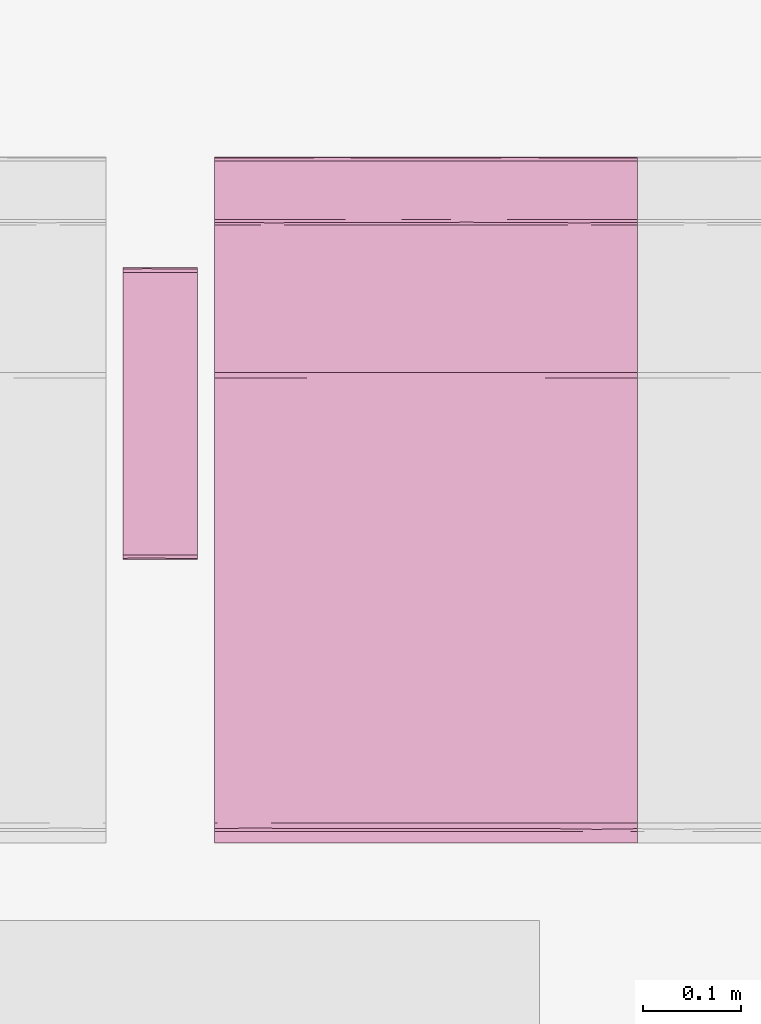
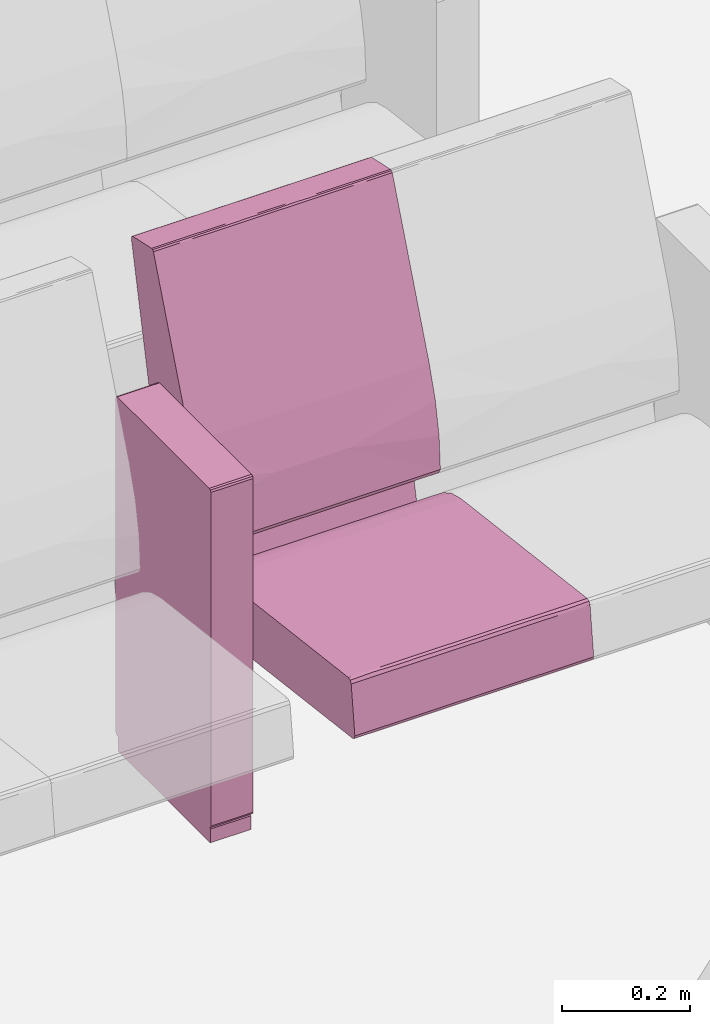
# One storey, part 86 of 155: 1 furnishing.
"""IFC2X3 building model written with IfcOpenShell, lengths in metres."""

from ifc_helpers import new_model, entity, si_unit, converted_unit, derived_unit, direction, frame, origin, place, context, subcontext, project, spatial, faceted_brep, source, transform, mapped, material, material_list, type_object, type_shapes, element, save


model = new_model("IFC2X3")

# Units and contexts
model_context = context("Model", 3, precision=1e-05, world=origin(), true_north=direction((6.12303176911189e-17, 1.0)))
body_context = subcontext(model_context, "Body", "Model", "MODEL_VIEW")
ifc_project = project(units=[si_unit("LENGTHUNIT", "METRE"), si_unit("AREAUNIT", "SQUARE_METRE"), si_unit("VOLUMEUNIT", "CUBIC_METRE"), converted_unit("PLANEANGLEUNIT", "DEGREE", entity("IfcRatioMeasure", 0.0174532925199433), si_unit("PLANEANGLEUNIT", "RADIAN"), dimensions=[0, 0, 0, 0, 0, 0, 0]), si_unit("MASSUNIT", "GRAM", prefix="KILO"), derived_unit("MASSDENSITYUNIT", [(si_unit("MASSUNIT", "GRAM", prefix="KILO"), 1), (si_unit("LENGTHUNIT", "METRE"), -3)]), si_unit("TIMEUNIT", "SECOND"), si_unit("FREQUENCYUNIT", "HERTZ"), si_unit("THERMODYNAMICTEMPERATUREUNIT", "DEGREE_CELSIUS"), derived_unit("THERMALTRANSMITTANCEUNIT", [(si_unit("MASSUNIT", "GRAM", prefix="KILO"), 1), (si_unit("THERMODYNAMICTEMPERATUREUNIT", "KELVIN"), -1), (si_unit("TIMEUNIT", "SECOND"), -3)]), derived_unit("VOLUMETRICFLOWRATEUNIT", [(si_unit("LENGTHUNIT", "METRE"), 3), (si_unit("TIMEUNIT", "SECOND"), -1)]), si_unit("ELECTRICCURRENTUNIT", "AMPERE"), si_unit("ELECTRICVOLTAGEUNIT", "VOLT"), si_unit("POWERUNIT", "WATT"), si_unit("FORCEUNIT", "NEWTON", prefix="KILO"), si_unit("ILLUMINANCEUNIT", "LUX"), si_unit("LUMINOUSFLUXUNIT", "LUMEN"), si_unit("LUMINOUSINTENSITYUNIT", "CANDELA"), derived_unit("USERDEFINED", [(si_unit("MASSUNIT", "GRAM", prefix="KILO"), -1), (si_unit("LENGTHUNIT", "METRE"), -2), (si_unit("TIMEUNIT", "SECOND"), 3), (si_unit("LUMINOUSFLUXUNIT", "LUMEN"), 1)]), derived_unit("LINEARVELOCITYUNIT", [(si_unit("LENGTHUNIT", "METRE"), 1), (si_unit("TIMEUNIT", "SECOND"), -1)]), si_unit("PRESSUREUNIT", "PASCAL"), derived_unit("USERDEFINED", [(si_unit("LENGTHUNIT", "METRE"), -2), (si_unit("MASSUNIT", "GRAM", prefix="KILO"), 1), (si_unit("TIMEUNIT", "SECOND"), -2)])], contexts=[model_context])

# Site, building, storey, space
site_placement = place(None, frame((26.9889013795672, -17.5624287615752, 0.0)))
site = spatial("IfcSite", under=ifc_project, at=site_placement, Name="Default", CompositionType="ELEMENT")
building_placement = place(site_placement, origin())
building = spatial("IfcBuilding", under=site, at=building_placement, Name="C. C. L. Monsenhor Antônio Sampaio", CompositionType="ELEMENT")
storey_placement = place(building_placement, frame((0.0, 0.0, 1.19999999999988)))
storey = spatial("IfcBuildingStorey", under=building, at=storey_placement, Name="Nível 1.2", CompositionType="ELEMENT", Elevation=1.19999999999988)
space_placement = place(storey_placement, origin())
space = spatial("IfcSpace", under=storey, at=space_placement, Name="94", CompositionType="ELEMENT", InteriorOrExteriorSpace="INTERNAL")

# Furnishing
ifc_material_1 = material(Name="V9 - V9 - Ecopelle_672_658")
ifc_material_2 = material(Name="V9 - V9 - RAL_9006_Grigio")
ifc_material_list_1 = material_list([ifc_material_1, ifc_material_2])
ifc_material_list_2 = material_list([ifc_material_1, ifc_material_2])
furniture_type = type_object("IfcFurnitureType", Name="Cadeira auditório", material=ifc_material_list_2)
shared_shape = source(origin(), body_context, "Body", "Brep", [
    faceted_brep([(0.405536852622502, 0.156348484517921, 0.339809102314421), (0.410560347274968, 0.131924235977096, 0.34246450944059), (0.405536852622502, 0.1075, 0.339809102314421), (0.405536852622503, 0.0537499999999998, 0.339809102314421), (0.410597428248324, 0.084060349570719, 0.342506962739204), (0.41079981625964, 0.0179166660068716, 0.342749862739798), (0.405536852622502, 0.215, 0.339809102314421), (0.410248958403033, 0.173608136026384, 0.342130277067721), (0.412515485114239, 0.185674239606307, 0.348529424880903), (0.412515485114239, 0.143333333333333, 0.348529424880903), (0.410560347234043, -0.131924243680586, 0.342464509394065), (0.405536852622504, -0.156348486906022, 0.33980910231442), (0.405536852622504, -0.1075, 0.33980910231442), (0.405536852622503, 0.0, 0.33980910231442), (0.41251548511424, 0.0, 0.348529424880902), (0.411170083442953, -0.0341365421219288, 0.343251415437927), (0.41059742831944, -0.0840603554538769, 0.342506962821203), (0.41251548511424, -0.143333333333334, 0.348529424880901), (0.412515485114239, 0.0358333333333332, 0.348529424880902), (0.412515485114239, 0.0716666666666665, 0.348529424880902), (0.405536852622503, -0.0537500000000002, 0.33980910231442), (0.412515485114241, -0.185674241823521, 0.348529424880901), (0.410799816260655, -0.215, 0.342749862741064), (0.410248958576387, -0.173608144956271, 0.342130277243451), (0.410799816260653, 0.215, 0.342749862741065), (0.412515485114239, 0.215, 0.348529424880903), (0.412515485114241, -0.215, 0.348529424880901), (0.41251548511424, -0.0716666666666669, 0.348529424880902), (0.405536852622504, -0.215, 0.33980910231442), (-0.0557900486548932, -0.215, 0.28268145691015), (-0.055790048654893, -0.168631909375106, 0.282681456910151), (-0.0557900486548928, -0.138065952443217, 0.282681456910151), (-0.0557900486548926, -0.107499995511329, 0.282681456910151), (-0.0557900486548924, -0.0806249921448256, 0.282681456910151), (-0.0557900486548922, -0.0537499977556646, 0.282681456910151), (-0.0557900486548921, -0.0268750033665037, 0.282681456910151), (-0.0557900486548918, 0.0, 0.28268145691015), (-0.0557900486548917, 0.0268749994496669, 0.282681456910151), (-0.0557900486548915, 0.0537499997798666, 0.282681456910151), (-0.0557900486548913, 0.0806250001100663, 0.282681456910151), (-0.0557900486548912, 0.107499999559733, 0.282681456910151), (-0.055790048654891, 0.134374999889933, 0.282681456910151), (-0.0557900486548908, 0.161250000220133, 0.282681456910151), (-0.0557900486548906, 0.1881249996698, 0.282681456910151), (-0.0557900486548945, 0.215, 0.28268145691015), (-0.0594787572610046, -0.0152829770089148, 0.283700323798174), (-0.0613666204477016, 0.0, 0.287029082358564), (-0.0594787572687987, 0.0179017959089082, 0.283700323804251), (-0.0613666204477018, 0.191815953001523, 0.287029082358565), (-0.0613666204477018, 0.215, 0.287029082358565), (-0.0594787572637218, 0.215, 0.283700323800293), (-0.0593340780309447, 0.0671874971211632, 0.283591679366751), (-0.0613666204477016, 0.030565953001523, 0.287029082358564), (-0.0594787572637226, -0.215, 0.283700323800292), (-0.0593337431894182, -0.184174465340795, 0.283591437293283), (-0.0613666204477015, -0.122263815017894, 0.287029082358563), (-0.0613666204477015, -0.0916978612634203, 0.287029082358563), (-0.0613666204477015, -0.0611319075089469, 0.287029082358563), (-0.0593023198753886, -0.0940625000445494, 0.283568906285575), (-0.059382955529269, 0.118123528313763, 0.28362747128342), (-0.0613666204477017, 0.122263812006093, 0.287029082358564), (-0.0597338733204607, 0.147039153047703, 0.283913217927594), (-0.0613666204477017, 0.168631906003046, 0.287029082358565), (-0.0592501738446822, 0.180223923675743, 0.283532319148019), (-0.0588783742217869, 0.0926899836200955, 0.283298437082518), (-0.0613666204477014, -0.215, 0.287029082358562), (-0.0613666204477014, -0.168631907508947, 0.287029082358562), (-0.0592576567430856, -0.123736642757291, 0.283537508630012), (-0.0594787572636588, -0.153348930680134, 0.283700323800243), (-0.0613666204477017, 0.0916978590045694, 0.287029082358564), (-0.0613666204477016, -0.0305659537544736, 0.287029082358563), (-0.059645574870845, -0.045848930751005, 0.283836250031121), (-0.0613666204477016, 0.0611319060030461, 0.287029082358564), (-0.069340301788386, -0.215, 0.351419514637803), (-0.0693403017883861, -0.143333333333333, 0.351419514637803), (-0.0693403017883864, -0.0716666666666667, 0.351419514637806), (-0.0693403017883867, 0.0, 0.351419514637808), (-0.069340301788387, 0.0716666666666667, 0.351419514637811), (-0.0693403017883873, 0.143333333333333, 0.351419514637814), (-0.0693403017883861, 0.215, 0.351419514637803), (-0.0597085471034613, 0.0, 0.37476954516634), (-0.0645543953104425, 0.112272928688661, 0.369803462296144), (-0.0653387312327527, 0.0126787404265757, 0.368680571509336), (-0.0681665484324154, -0.0888707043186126, 0.36292533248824), (-0.0655136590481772, -0.10440004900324, 0.368411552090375), (-0.0694879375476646, 0.0590582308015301, 0.356377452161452), (-0.0695056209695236, -0.125492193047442, 0.356093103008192), (-0.0597085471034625, -0.110316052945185, 0.374769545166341), (-0.0690003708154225, 0.132942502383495, 0.359900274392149), (-0.0672851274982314, 0.108066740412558, 0.365148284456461), (-0.0676206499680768, 0.215, 0.364371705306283), (-0.0686241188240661, 0.215, 0.356813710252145), (-0.0686241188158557, -0.214999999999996, 0.356813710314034), (-0.0686999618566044, 0.0358333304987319, 0.36116674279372), (-0.0694502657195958, -0.0358333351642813, 0.356863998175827), (-0.0676206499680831, -0.214999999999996, 0.364371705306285), (-0.0636645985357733, -0.214999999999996, 0.369570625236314), (-0.0597085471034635, -0.214999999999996, 0.374769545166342), (-0.0597085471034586, 0.215, 0.374769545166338), (-0.0636645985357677, 0.215, 0.36957062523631), (-0.0597085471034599, 0.110316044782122, 0.374769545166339), (-0.0324117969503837, 0.215, 0.390639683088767), (-0.0324117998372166, 0.0436847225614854, 0.39063968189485), (-0.0018793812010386, 0.215, 0.398686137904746), (-0.041847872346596, -0.0856576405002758, 0.386239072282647), (-0.0324117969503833, -0.215, 0.390639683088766), (-0.00187938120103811, -0.215, 0.398686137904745), (-0.00187938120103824, -0.102488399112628, 0.398686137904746), (-0.0219042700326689, -0.0570631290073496, 0.394412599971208), (-0.00187938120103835, 0.0, 0.398686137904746), (0.392202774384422, 0.215, 0.447486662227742), (0.392202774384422, -0.215, 0.447486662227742), (0.392202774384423, -0.156349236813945, 0.447486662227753), (0.392202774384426, -0.107499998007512, 0.447486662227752), (0.392202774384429, -0.0537500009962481, 0.44748666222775), (0.392202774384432, 0.0, 0.447486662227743), (0.392202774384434, 0.0537499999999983, 0.447486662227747), (0.392202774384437, 0.107499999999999, 0.447486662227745), (0.392202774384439, 0.156349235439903, 0.447486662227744), (0.398104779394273, -0.131924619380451, 0.445856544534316), (0.401125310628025, -0.0976984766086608, 0.440530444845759), (0.397860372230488, -0.0827732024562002, 0.446039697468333), (0.401125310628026, -0.215000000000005, 0.440530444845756), (0.401125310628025, -0.156349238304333, 0.440530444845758), (0.397373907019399, -0.173462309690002, 0.446363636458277), (0.398104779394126, -0.215000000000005, 0.445856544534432), (0.397860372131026, 0.0827731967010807, 0.446039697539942), (0.398104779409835, 0.131924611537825, 0.445856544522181), (0.398104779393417, -0.0237489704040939, 0.445856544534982), (0.398104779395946, 0.0268749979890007, 0.445856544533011), (0.401125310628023, 0.0488492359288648, 0.440530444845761), (0.401125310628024, -0.0488492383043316, 0.440530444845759), (0.398774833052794, 0.173462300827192, 0.445271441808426), (0.401125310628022, 0.097698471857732, 0.440530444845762), (0.401125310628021, 0.215, 0.440530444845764), (0.39810477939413, 0.215, 0.445856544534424), (0.401125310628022, 0.156349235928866, 0.440530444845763), (0.401125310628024, 0.0, 0.44053044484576)], [[[0, 1, 2]], [[3, 4, 5]], [[6, 7, 0]], [[7, 8, 9]], [[10, 11, 12]], [[3, 5, 13]], [[14, 15, 5]], [[16, 17, 10]], [[9, 1, 7]], [[18, 5, 4]], [[4, 9, 19, 18]], [[9, 4, 1]], [[2, 1, 4]], [[13, 15, 20]], [[21, 22, 23]], [[5, 18, 14]], [[24, 25, 8]], [[22, 21, 26]], [[24, 7, 6]], [[23, 11, 10]], [[20, 15, 16]], [[3, 2, 4]], [[14, 27, 15]], [[5, 15, 13]], [[27, 17, 16]], [[10, 12, 16]], [[21, 23, 17]], [[20, 16, 12]], [[15, 27, 16]], [[7, 1, 0]], [[28, 11, 23]], [[8, 7, 24]], [[23, 10, 17]], [[28, 23, 22]], [[28, 29, 30, 31, 32, 33, 34, 35, 36, 37, 38, 39, 40, 41, 42, 43, 44, 6, 0, 2, 3, 13, 20, 12, 11]], [[45, 46, 47]], [[48, 49, 50]], [[51, 47, 52]], [[29, 53, 54]], [[55, 56, 57, 58]], [[59, 60, 61]], [[61, 62, 63]], [[51, 64, 39]], [[65, 66, 54]], [[31, 67, 32]], [[45, 47, 38, 37, 36, 35]], [[68, 31, 30]], [[43, 50, 44]], [[63, 42, 61]], [[48, 50, 63]], [[64, 69, 59]], [[68, 54, 66]], [[63, 62, 48]], [[50, 43, 63]], [[67, 55, 58]], [[61, 42, 41]], [[45, 70, 46]], [[55, 68, 66]], [[71, 33, 58]], [[71, 57, 70]], [[41, 40, 59]], [[60, 62, 61]], [[71, 35, 34, 33]], [[35, 71, 45]], [[47, 46, 52]], [[45, 71, 70]], [[58, 57, 71]], [[32, 58, 33]], [[31, 68, 67]], [[54, 68, 30]], [[29, 54, 30]], [[54, 53, 65]], [[55, 67, 68]], [[32, 67, 58]], [[51, 52, 72, 69]], [[43, 42, 63]], [[41, 59, 61]], [[47, 51, 38]], [[40, 39, 64]], [[38, 51, 39]], [[69, 60, 59]], [[69, 64, 51]], [[40, 64, 59]], [[65, 73, 74, 75, 76, 77, 78, 79, 49, 48, 62, 60, 69, 72, 52, 46, 70, 57, 56, 55, 66]], [[80, 81, 82]], [[82, 83, 84]], [[78, 77, 76, 85]], [[86, 75, 74]], [[84, 80, 82]], [[80, 84, 87]], [[88, 89, 90]], [[91, 79, 78]], [[74, 73, 92]], [[85, 88, 91]], [[81, 89, 82]], [[93, 94, 83]], [[94, 86, 83]], [[85, 76, 94]], [[92, 86, 74]], [[85, 94, 93]], [[83, 92, 95]], [[75, 94, 76]], [[93, 83, 82]], [[95, 96, 84]], [[88, 85, 93]], [[96, 97, 87]], [[98, 99, 100]], [[78, 85, 91]], [[89, 88, 93]], [[90, 91, 88]], [[93, 82, 89]], [[81, 99, 89]], [[99, 90, 89]], [[100, 81, 80]], [[100, 99, 81]], [[83, 86, 92]], [[75, 86, 94]], [[95, 84, 83]], [[87, 84, 96]], [[101, 102, 103]], [[104, 80, 87, 97]], [[105, 106, 107]], [[107, 108, 105]], [[103, 102, 109]], [[104, 102, 80]], [[104, 108, 102]], [[98, 102, 101]], [[105, 104, 97]], [[105, 108, 104]], [[102, 98, 100, 80]], [[109, 108, 107]], [[109, 102, 108]], [[110, 103, 109, 107, 106, 111, 112, 113, 114, 115, 116, 117, 118]], [[119, 120, 121]], [[122, 123, 124]], [[111, 125, 124]], [[117, 116, 126]], [[124, 119, 112]], [[113, 112, 119]], [[127, 118, 117]], [[115, 114, 128, 129, 116]], [[129, 130, 126]], [[121, 131, 128]], [[127, 132, 118]], [[110, 118, 132]], [[127, 126, 133]], [[119, 124, 123]], [[134, 135, 132]], [[136, 132, 127]], [[120, 119, 123]], [[133, 136, 127]], [[137, 130, 129, 128, 131]], [[126, 127, 117]], [[130, 133, 126]], [[113, 119, 121]], [[129, 126, 116]], [[128, 114, 121]], [[114, 113, 121]], [[131, 121, 120]], [[111, 124, 112]], [[124, 125, 122]], [[134, 132, 136]], [[132, 135, 110]], [[19, 9, 8, 25, 134, 136, 133, 130, 137, 131, 120, 123, 122, 26, 21, 17, 27, 14, 18]], [[65, 53, 29, 28, 22, 26, 122, 125, 111, 106, 105, 97, 96, 95, 92, 73]], [[98, 101, 103, 110, 135, 134, 25, 24, 6, 44, 50, 49, 79, 91, 90, 99]]]),
    faceted_brep([(0.123144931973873, -0.283972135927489, 0.673627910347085), (0.12334838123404, -0.259944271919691, 0.6734355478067), (0.119812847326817, -0.27, 0.674900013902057), (0.124812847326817, -0.27, 0.669900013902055), (0.12334838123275, -0.232, 0.673435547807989), (0.119812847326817, -0.232, 0.674900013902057), (0.124812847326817, -0.308, 0.669900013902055), (0.119812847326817, -0.308, 0.674900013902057), (0.124812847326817, -0.249888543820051, 0.669900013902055), (0.124812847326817, -0.232, 0.669900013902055), (0.12334838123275, -0.308, 0.673435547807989), (0.124812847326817, -0.27, 0.035), (0.124812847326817, -0.232, 0.035), (0.124812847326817, -0.308, 0.0350000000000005), (0.123540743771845, -0.283972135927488, 0.0316679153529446), (0.12334838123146, -0.25994427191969, 0.0314644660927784), (0.119812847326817, -0.27, 0.0300000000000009), (0.12334838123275, -0.232, 0.0314644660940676), (0.119812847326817, -0.308, 0.0300000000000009), (0.119812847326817, -0.249888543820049, 0.030000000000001), (0.119812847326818, -0.232, 0.030000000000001), (0.123348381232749, -0.308, 0.0314644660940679), (-0.167179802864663, -0.308, 0.0300000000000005), (-0.167179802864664, -0.27, 0.0300000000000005), (-0.167179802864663, -0.232, 0.0300000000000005), (-0.17051188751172, -0.283972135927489, 0.0312721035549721), (-0.170715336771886, -0.25994427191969, 0.0314644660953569), (-0.172179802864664, -0.27, 0.0350000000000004), (-0.170715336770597, -0.232, 0.0314644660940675), (-0.172179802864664, -0.308, 0.0350000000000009), (-0.172179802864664, -0.24988854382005, 0.0350000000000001), (-0.172179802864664, -0.232, 0.0349999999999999), (-0.170715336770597, -0.308, 0.0314644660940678), (-0.172179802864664, -0.308, 0.669900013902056), (-0.172179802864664, -0.27, 0.669900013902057), (-0.172179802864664, -0.232, 0.669900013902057), (-0.170907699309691, -0.283972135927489, 0.673232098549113), (-0.170715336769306, -0.259944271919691, 0.673435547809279), (-0.167179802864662, -0.27, 0.674900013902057), (-0.170715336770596, -0.232, 0.67343554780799), (-0.167179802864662, -0.308, 0.674900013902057), (-0.167179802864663, -0.249888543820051, 0.674900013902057), (-0.167179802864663, -0.232, 0.674900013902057), (-0.170715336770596, -0.308, 0.67343554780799)], [[[0, 1, 2]], [[1, 0, 3]], [[1, 4, 5, 2]], [[6, 3, 0]], [[7, 0, 2]], [[4, 1, 3, 8, 9]], [[10, 0, 7]], [[0, 10, 6]], [[11, 12, 9, 8, 3, 6, 13]], [[14, 15, 11]], [[15, 14, 16]], [[15, 17, 12, 11]], [[18, 16, 14]], [[13, 14, 11]], [[17, 15, 16, 19, 20]], [[21, 14, 13]], [[14, 21, 18]], [[18, 22, 23, 24, 20, 19, 16]], [[25, 26, 23]], [[26, 25, 27]], [[26, 28, 24, 23]], [[29, 27, 25]], [[22, 25, 23]], [[28, 26, 27, 30, 31]], [[32, 25, 22]], [[25, 32, 29]], [[27, 29, 33, 34, 35, 31, 30]], [[36, 37, 34]], [[37, 36, 38]], [[37, 39, 35, 34]], [[40, 38, 36]], [[33, 36, 34]], [[39, 37, 38, 41, 42]], [[43, 36, 33]], [[36, 43, 40]], [[40, 7, 2, 5, 42, 41, 38]], [[35, 39, 42, 5, 4, 9, 12, 17, 20, 24, 28, 31]], [[29, 32, 22, 18, 21, 13, 6, 10, 7, 40, 43, 33]]]),
    faceted_brep([(-0.0695672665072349, 0.215, 0.476508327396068), (-0.074405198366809, 0.0524423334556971, 0.506888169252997), (-0.0655618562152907, 0.215, 0.415143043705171), (-0.0744051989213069, -0.0780075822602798, 0.506888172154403), (-0.0655618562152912, 0.0, 0.415143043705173), (-0.0655618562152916, -0.215, 0.415143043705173), (-0.0655618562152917, -0.1075, 0.415143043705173), (-0.0655618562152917, 0.1075, 0.415143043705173), (-0.0695672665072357, -0.215, 0.476508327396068), (-0.081111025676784, -0.215, 0.536911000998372), (-0.0811110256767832, 0.215, 0.536911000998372), (-0.100016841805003, 0.215, 0.595428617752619), (-0.100016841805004, 0.0, 0.595428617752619), (-0.100016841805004, -0.215, 0.595428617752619), (-0.0698317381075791, 0.0358333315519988, 0.406528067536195), (-0.0792851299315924, 0.0, 0.404772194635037), (-0.0792851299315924, 0.0716666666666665, 0.404772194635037), (-0.0792851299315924, -0.215, 0.404772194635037), (-0.0792851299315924, -0.143333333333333, 0.404772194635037), (-0.0698317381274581, -0.215, 0.406528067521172), (-0.0792851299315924, 0.143333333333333, 0.404772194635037), (-0.0792851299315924, 0.215, 0.404772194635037), (-0.0698317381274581, 0.215, 0.406528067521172), (-0.0694171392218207, 0.140338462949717, 0.406857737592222), (-0.0708115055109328, -0.0356393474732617, 0.405868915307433), (-0.0703502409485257, -0.107500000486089, 0.406159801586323), (-0.0792851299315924, -0.0716666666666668, 0.404772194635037), (-0.163837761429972, -0.215, 0.420611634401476), (-0.163837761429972, 0.215, 0.420611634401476), (-0.123612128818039, 0.215, 0.235917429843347), (-0.123612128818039, -0.215, 0.235917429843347), (-0.142059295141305, -0.215, 0.231899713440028), (-0.142059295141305, 0.215, 0.231899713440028), (-0.235388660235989, -0.215, 0.652619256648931), (-0.235388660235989, 0.215, 0.652619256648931), (-0.28428001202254, -0.215, 0.873004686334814), (-0.284280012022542, -0.191295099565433, 0.873004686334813), (-0.284280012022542, -0.161249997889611, 0.873004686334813), (-0.284280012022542, -0.134374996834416, 0.873004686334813), (-0.284280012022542, -0.107499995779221, 0.873004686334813), (-0.284280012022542, -0.0806249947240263, 0.873004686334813), (-0.284280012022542, -0.0537499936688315, 0.873004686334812), (-0.284280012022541, -0.0268749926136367, 0.873004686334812), (-0.28428001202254, 0.0, 0.873004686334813), (-0.284280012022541, 0.0268749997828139, 0.873004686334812), (-0.284280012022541, 0.0537500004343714, 0.873004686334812), (-0.284280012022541, 0.0806250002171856, 0.873004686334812), (-0.284280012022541, 0.1075, 0.873004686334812), (-0.284280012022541, 0.134374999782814, 0.873004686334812), (-0.28428001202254, 0.161249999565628, 0.873004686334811), (-0.28428001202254, 0.191295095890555, 0.873004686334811), (-0.28428001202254, 0.215, 0.873004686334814), (-0.283746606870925, 0.0872244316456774, 0.876674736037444), (-0.283504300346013, 0.0569644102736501, 0.877068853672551), (-0.283567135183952, -0.15546176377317, 0.876973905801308), (-0.283641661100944, -0.12093750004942, 0.87685511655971), (-0.283567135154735, 0.155461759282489, 0.876973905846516), (-0.28330409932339, 0.185293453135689, 0.877344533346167), (-0.283641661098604, 0.0179166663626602, 0.876855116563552), (-0.283641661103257, -0.0136463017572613, 0.876855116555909), (-0.280514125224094, -0.0358333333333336, 0.879190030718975), (-0.280514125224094, 0.0, 0.879190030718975), (-0.280514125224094, 0.0358333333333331, 0.879190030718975), (-0.280514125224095, -0.143333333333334, 0.879190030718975), (-0.280514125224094, -0.1075, 0.879190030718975), (-0.280514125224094, -0.071666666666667, 0.879190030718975), (-0.283746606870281, -0.0872244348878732, 0.876674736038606), (-0.280514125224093, 0.0716666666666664, 0.879190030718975), (-0.280514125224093, 0.1075, 0.879190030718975), (-0.283641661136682, 0.120937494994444, 0.876855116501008), (-0.280514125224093, 0.143333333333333, 0.879190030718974), (-0.283641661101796, 0.215, 0.876855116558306), (-0.283641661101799, -0.215, 0.876855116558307), (-0.283304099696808, -0.18529345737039, 0.877344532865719), (-0.280514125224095, -0.167590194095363, 0.879190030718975), (-0.280514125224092, 0.215, 0.879190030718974), (-0.280514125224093, 0.167590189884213, 0.879190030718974), (-0.280514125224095, -0.215, 0.879190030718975), (-0.283504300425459, -0.0569644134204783, 0.8770688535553), (-0.22111253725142, 0.215, 0.892176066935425), (-0.22111253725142, -0.215, 0.892176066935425), (-0.221112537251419, -0.191815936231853, 0.892176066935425), (-0.221112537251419, -0.161250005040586, 0.892176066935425), (-0.221112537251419, -0.134375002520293, 0.892176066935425), (-0.221112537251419, -0.1075, 0.892176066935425), (-0.221112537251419, -0.080624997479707, 0.892176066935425), (-0.221112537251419, -0.0537499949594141, 0.892176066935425), (-0.221112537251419, -0.0268750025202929, 0.892176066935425), (-0.221112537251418, 0.0, 0.892176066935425), (-0.221112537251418, 0.0268750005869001, 0.892176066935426), (-0.221112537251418, 0.05375000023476, 0.892176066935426), (-0.221112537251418, 0.0806249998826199, 0.892176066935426), (-0.221112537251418, 0.10749999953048, 0.892176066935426), (-0.221112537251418, 0.13437499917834, 0.892176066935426), (-0.221112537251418, 0.16124999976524, 0.892176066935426), (-0.221112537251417, 0.19181594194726, 0.892176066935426), (-0.215419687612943, 0.0, 0.889191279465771), (-0.215419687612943, 0.0358333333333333, 0.889191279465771), (-0.217722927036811, 0.0162353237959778, 0.891719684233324), (-0.217722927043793, -0.0134375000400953, 0.891719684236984), (-0.215419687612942, -0.191815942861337, 0.889191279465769), (-0.215419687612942, -0.168631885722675, 0.889191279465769), (-0.217722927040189, -0.182482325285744, 0.891719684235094), (-0.217722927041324, -0.215, 0.891719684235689), (-0.215419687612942, -0.215, 0.889191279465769), (-0.215419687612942, -0.1075, 0.88919127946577), (-0.215419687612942, -0.0716666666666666, 0.88919127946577), (-0.217722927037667, -0.0912646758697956, 0.891719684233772), (-0.217722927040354, -0.120937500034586, 0.89171968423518), (-0.215419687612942, -0.143333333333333, 0.88919127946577), (-0.215419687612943, 0.191815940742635, 0.889191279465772), (-0.215419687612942, 0.215, 0.889191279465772), (-0.217722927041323, 0.215, 0.89171968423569), (-0.217722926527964, 0.190103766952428, 0.891719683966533), (-0.217722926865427, 0.0912646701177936, 0.891719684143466), (-0.217816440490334, 0.0647800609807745, 0.891767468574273), (-0.215419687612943, 0.0716666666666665, 0.889191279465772), (-0.217816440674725, -0.0647800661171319, 0.891767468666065), (-0.2179983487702, -0.0390825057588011, 0.891853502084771), (-0.217558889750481, -0.155982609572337, 0.891629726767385), (-0.217722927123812, 0.120937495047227, 0.891719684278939), (-0.215419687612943, 0.16863188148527, 0.889191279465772), (-0.215419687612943, 0.143333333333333, 0.889191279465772), (-0.217558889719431, 0.15598260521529, 0.891629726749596), (-0.215419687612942, -0.0358333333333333, 0.889191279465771), (-0.215419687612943, 0.1075, 0.889191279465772), (-0.218257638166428, 0.0404491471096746, 0.891961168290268)], [[[0, 1, 2]], [[1, 3, 4]], [[3, 5, 6, 4]], [[1, 4, 7, 2]], [[5, 3, 8]], [[8, 3, 9]], [[0, 10, 1]], [[11, 12, 1]], [[3, 13, 9]], [[3, 12, 13]], [[11, 1, 10]], [[3, 1, 12]], [[14, 15, 16]], [[17, 18, 19]], [[20, 21, 22]], [[2, 23, 22]], [[14, 7, 4]], [[14, 24, 15]], [[6, 25, 24]], [[22, 23, 20]], [[14, 23, 7]], [[19, 6, 5]], [[4, 24, 14]], [[16, 23, 14]], [[16, 20, 23]], [[26, 25, 18]], [[25, 19, 18]], [[15, 24, 26]], [[23, 2, 7]], [[19, 25, 6]], [[26, 24, 25]], [[6, 24, 4]], [[15, 26, 18, 17, 27, 28, 21, 20, 16]], [[29, 28, 27, 30]], [[30, 31, 32, 29]], [[32, 31, 33, 34]], [[34, 33, 35, 36, 37, 38, 39, 40, 41, 42, 43, 44, 45, 46, 47, 48, 49, 50, 51]], [[52, 46, 53]], [[38, 54, 55]], [[56, 57, 49]], [[58, 59, 60, 61, 62]], [[63, 64, 55]], [[64, 65, 66]], [[52, 67, 68]], [[69, 70, 56]], [[49, 57, 50]], [[38, 55, 39]], [[71, 51, 50]], [[36, 35, 72]], [[59, 58, 44, 43, 42]], [[73, 74, 54]], [[55, 66, 39]], [[75, 57, 76]], [[77, 74, 73]], [[69, 52, 68]], [[37, 36, 73]], [[54, 74, 63]], [[56, 76, 57]], [[36, 72, 73]], [[75, 71, 57]], [[70, 76, 56]], [[52, 69, 47]], [[48, 47, 69]], [[42, 78, 59]], [[66, 55, 64]], [[50, 57, 71]], [[73, 54, 37]], [[77, 73, 72]], [[48, 69, 56]], [[56, 49, 48]], [[69, 68, 70]], [[53, 46, 45, 44]], [[58, 62, 53]], [[53, 44, 58]], [[38, 37, 54]], [[63, 55, 54]], [[78, 66, 65]], [[78, 40, 66]], [[67, 52, 53]], [[78, 42, 41, 40]], [[65, 60, 78]], [[59, 78, 60]], [[52, 47, 46]], [[40, 39, 66]], [[62, 67, 53]], [[79, 75, 76, 70, 68, 67, 62, 61, 60, 65, 64, 63, 74, 77, 80, 81, 82, 83, 84, 85, 86, 87, 88, 89, 90, 91, 92, 93, 94, 95]], [[96, 97, 98, 99]], [[100, 101, 102, 103, 104]], [[105, 106, 107, 108, 109]], [[110, 111, 112]], [[113, 112, 95]], [[114, 115, 116]], [[117, 118, 86]], [[82, 119, 83]], [[102, 82, 81, 80, 103]], [[112, 79, 95]], [[108, 107, 85, 84, 83]], [[88, 87, 99, 98, 89]], [[119, 101, 109]], [[93, 92, 120]], [[117, 85, 107]], [[113, 121, 110]], [[122, 121, 123]], [[113, 94, 123]], [[124, 99, 118]], [[122, 123, 120]], [[108, 119, 109]], [[113, 110, 112]], [[102, 101, 119]], [[119, 108, 83]], [[114, 125, 120]], [[123, 94, 93]], [[93, 120, 123]], [[114, 120, 92]], [[122, 120, 125]], [[117, 107, 106]], [[114, 92, 91]], [[116, 125, 114]], [[115, 91, 90]], [[85, 117, 86]], [[126, 89, 98]], [[117, 106, 124]], [[118, 99, 87]], [[124, 96, 99]], [[97, 116, 115]], [[97, 115, 126]], [[86, 118, 87]], [[124, 118, 117]], [[91, 115, 114]], [[115, 90, 126]], [[89, 126, 90]], [[97, 126, 98]], [[82, 102, 119]], [[94, 113, 95]], [[121, 113, 123]], [[11, 111, 110, 121, 122, 125, 116, 97, 96, 124, 106, 105, 109, 101, 100, 104, 13, 12]], [[27, 17, 19, 5, 8, 9, 13, 104, 103, 80, 77, 72, 35, 33, 31, 30]], [[51, 71, 75, 79, 112, 111, 11, 10, 0, 2, 22, 21, 28, 29, 32, 34]]]),
    faceted_brep([(0.120312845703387, -0.2335, 0.0), (0.120312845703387, -0.2335, 0.0260000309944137), (0.120312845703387, -0.249500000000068, 0.0260000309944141), (0.120312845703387, -0.27, 0.0260000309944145), (0.120312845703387, -0.3065, 0.0260000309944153), (0.120312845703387, -0.3065, 0.0), (-0.167687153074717, -0.3065, 0.0), (-0.167687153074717, -0.2335, 0.0), (-0.167687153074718, -0.27, 0.0260000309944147), (-0.167687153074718, -0.2335, 0.0260000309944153), (-0.167687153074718, -0.3065, 0.0260000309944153), (-0.166521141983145, -0.233500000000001, 0.0288228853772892), (-0.166521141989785, -0.257382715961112, 0.0288228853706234), (-0.163702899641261, -0.233500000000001, 0.0300000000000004), (-0.163702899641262, -0.3065, 0.0300000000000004), (-0.16652114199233, -0.279986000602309, 0.0288228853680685), (-0.166521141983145, -0.3065, 0.0288228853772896), (-0.163702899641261, -0.27, 0.0300000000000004), (0.116297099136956, -0.3065, 0.0300000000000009), (0.116297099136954, -0.269999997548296, 0.0300000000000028), (0.116297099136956, -0.2335, 0.0300000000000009), (0.119033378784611, -0.283124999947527, 0.0289323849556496), (0.1191357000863, -0.2335, 0.0288340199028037), (0.119135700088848, -0.259750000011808, 0.0288340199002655), (0.119135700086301, -0.3065, 0.0288340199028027)], [[[0, 1, 2, 3, 4, 5]], [[0, 5, 6, 7]], [[8, 9, 7, 6, 10]], [[11, 12, 13]], [[14, 15, 16]], [[15, 14, 17, 13, 12]], [[9, 8, 12, 11]], [[16, 15, 10]], [[8, 10, 15, 12]], [[14, 18, 19, 20, 13, 17]], [[21, 4, 3]], [[22, 20, 19, 23]], [[3, 2, 1, 22, 23]], [[24, 21, 18]], [[21, 3, 23]], [[18, 21, 19]], [[21, 24, 4]], [[21, 23, 19]], [[6, 5, 4, 24, 18, 14, 16, 10]], [[7, 9, 11, 13, 20, 22, 1, 0]]]),
])
type_shapes(furniture_type, [shared_shape])
furnishing_placement = place(space_placement, frame((-11.4859492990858, -16.2852332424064, 0.0), z_axis=(0.0, 0.0, 1.0), x_axis=(0.0, -1.0, 0.0)))
element("IfcFurnishingElement", 1, at=furnishing_placement, inside=space, type_object=furniture_type, material=ifc_material_list_1, Name="cadeira auditório pcd:Cadeira auditório", ObjectType="Cadeira auditório", context=body_context, shape_type="MappedRepresentation", body=[
    mapped(shared_shape, transform((0.0, 0.0, 0.0), scale=1.0)),
])

save(model, "model.ifc")
